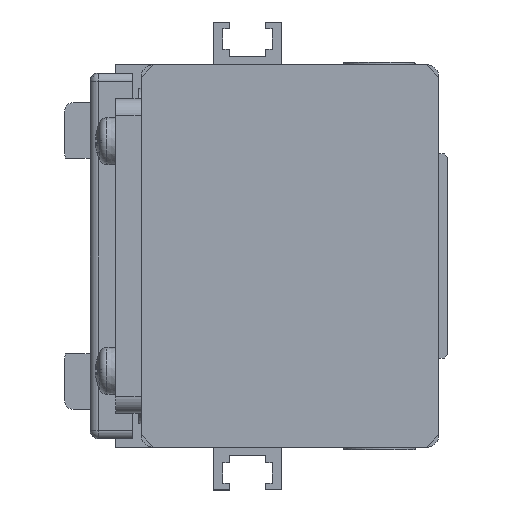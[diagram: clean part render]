
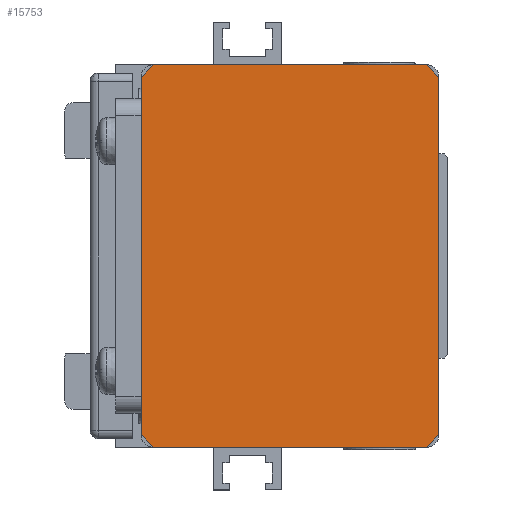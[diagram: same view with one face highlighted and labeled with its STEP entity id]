
A CAD part, left-side view. The second image highlights one B-rep face of the part: STEP entity #15753.
In plain terms, the highlighted planar face has unit normal (-1, 0, 0) as drawn and (0, 0, -1) by its records, which use the part's own axes.
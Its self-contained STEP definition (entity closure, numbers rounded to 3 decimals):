
#662=LINE('',#22811,#2028);
#664=LINE('',#22816,#2030);
#665=LINE('',#22818,#2031);
#666=LINE('',#22820,#2032);
#667=LINE('',#22821,#2033);
#668=LINE('',#22823,#2034);
#669=LINE('',#22825,#2035);
#670=LINE('',#22826,#2036);
#2028=VECTOR('',#18392,2.121);
#2030=VECTOR('',#18396,2.121);
#2031=VECTOR('',#18397,32.);
#2032=VECTOR('',#18398,2.121);
#2033=VECTOR('',#18399,42.);
#2034=VECTOR('',#18400,32.);
#2035=VECTOR('',#18401,2.121);
#2036=VECTOR('',#18402,42.);
#3680=PLANE('',#16804);
#4371=FACE_OUTER_BOUND('',#5343,.T.);
#5343=EDGE_LOOP('',(#10995,#10996,#10997,#10998,#10999,#11000,#11001,#11002));
#6921=VERTEX_POINT('',#22808);
#6922=VERTEX_POINT('',#22810);
#6923=VERTEX_POINT('',#22814);
#6924=VERTEX_POINT('',#22815);
#6925=VERTEX_POINT('',#22817);
#6926=VERTEX_POINT('',#22819);
#6927=VERTEX_POINT('',#22822);
#6928=VERTEX_POINT('',#22824);
#8546=EDGE_CURVE('',#6921,#6922,#662,.T.);
#8548=EDGE_CURVE('',#6923,#6924,#664,.T.);
#8549=EDGE_CURVE('',#6923,#6925,#665,.T.);
#8550=EDGE_CURVE('',#6926,#6925,#666,.T.);
#8551=EDGE_CURVE('',#6926,#6922,#667,.T.);
#8552=EDGE_CURVE('',#6921,#6927,#668,.T.);
#8553=EDGE_CURVE('',#6928,#6927,#669,.T.);
#8554=EDGE_CURVE('',#6928,#6924,#670,.T.);
#10995=ORIENTED_EDGE('',*,*,#8548,.F.);
#10996=ORIENTED_EDGE('',*,*,#8549,.T.);
#10997=ORIENTED_EDGE('',*,*,#8550,.F.);
#10998=ORIENTED_EDGE('',*,*,#8551,.T.);
#10999=ORIENTED_EDGE('',*,*,#8546,.F.);
#11000=ORIENTED_EDGE('',*,*,#8552,.T.);
#11001=ORIENTED_EDGE('',*,*,#8553,.F.);
#11002=ORIENTED_EDGE('',*,*,#8554,.T.);
#15753=ADVANCED_FACE('',(#4371),#3680,.F.);
#16804=AXIS2_PLACEMENT_3D('',#22813,#18394,#18395);
#18392=DIRECTION('',(-0.707,0.707,0.));
#18394=DIRECTION('center_axis',(0.,0.,1.));
#18395=DIRECTION('ref_axis',(1.,0.,0.));
#18396=DIRECTION('',(0.707,-0.707,0.));
#18397=DIRECTION('',(0.,1.,0.));
#18398=DIRECTION('',(-0.707,-0.707,0.));
#18399=DIRECTION('',(1.,0.,0.));
#18400=DIRECTION('',(0.,-1.,0.));
#18401=DIRECTION('',(0.707,0.707,0.));
#18402=DIRECTION('',(-1.,0.,0.));
#22808=CARTESIAN_POINT('',(50.,34.5,-377.));
#22810=CARTESIAN_POINT('',(48.5,36.,-377.));
#22811=CARTESIAN_POINT('',(50.,34.5,-377.));
#22813=CARTESIAN_POINT('Origin',(27.5,18.5,-377.));
#22814=CARTESIAN_POINT('',(5.,2.5,-377.));
#22815=CARTESIAN_POINT('',(6.5,1.,-377.));
#22816=CARTESIAN_POINT('',(5.,2.5,-377.));
#22817=CARTESIAN_POINT('',(5.,34.5,-377.));
#22818=CARTESIAN_POINT('',(5.,2.5,-377.));
#22819=CARTESIAN_POINT('',(6.5,36.,-377.));
#22820=CARTESIAN_POINT('',(6.5,36.,-377.));
#22821=CARTESIAN_POINT('',(6.5,36.,-377.));
#22822=CARTESIAN_POINT('',(50.,2.5,-377.));
#22823=CARTESIAN_POINT('',(50.,34.5,-377.));
#22824=CARTESIAN_POINT('',(48.5,1.,-377.));
#22825=CARTESIAN_POINT('',(48.5,1.,-377.));
#22826=CARTESIAN_POINT('',(48.5,1.,-377.));
